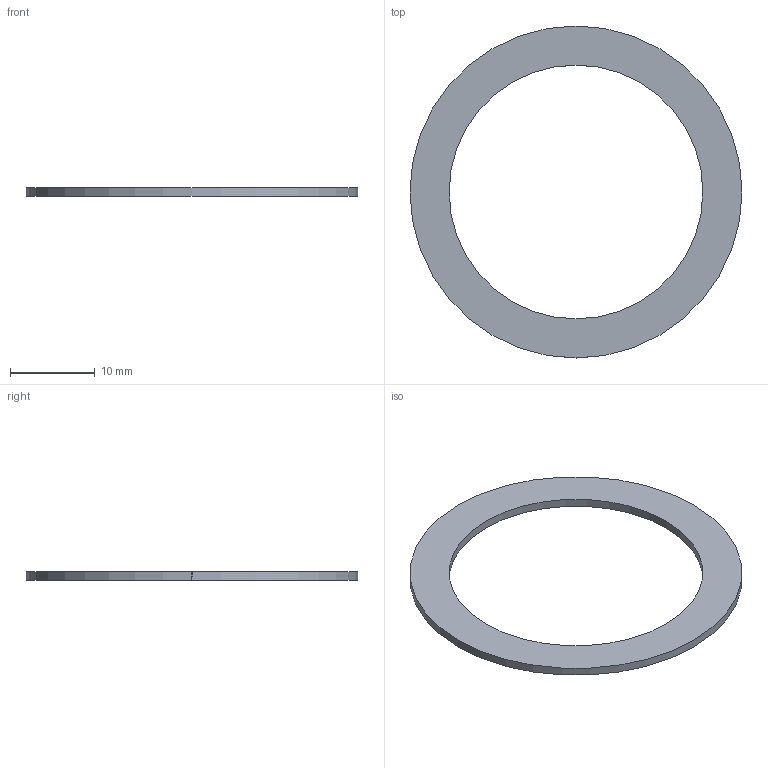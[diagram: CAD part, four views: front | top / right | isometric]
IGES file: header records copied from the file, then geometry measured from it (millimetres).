
Global section: file name: C:\Documents and Settings\Administrator\Desktop\Transfer Temp\drillclutchspringring.igs; native system: AutoDesk Inventor R2.0 ; preprocessor: AutoDesk Inventor Iges Exporter R2.0; author: No Author specified; organization: No Organization specified; date: 20011207.174425; units: millimetre
Bounding box: 39.25 x 39.25 x 1 mm (x, y, z)
Surface area: 1223.7 mm2 (no closed solid volume)
Topology: 0 solids, 0 shells, 6 faces, 24 edges, 24 vertices
Faces by surface type: revolution 4, bspline 2
